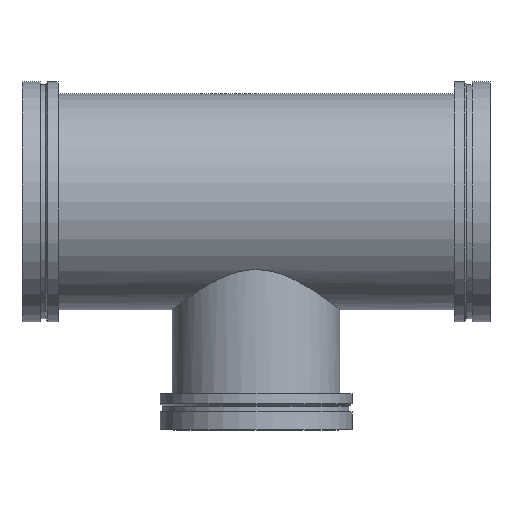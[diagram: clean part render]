
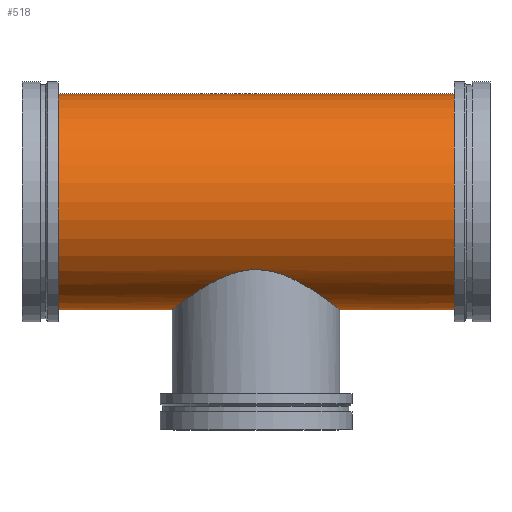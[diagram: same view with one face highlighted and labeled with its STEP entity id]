
A CAD part, top view. The second image highlights one B-rep face of the part: STEP entity #518.
In plain terms, the highlighted cylindrical face has radius 228.6 mm (diameter 457.2 mm), a full revolution.
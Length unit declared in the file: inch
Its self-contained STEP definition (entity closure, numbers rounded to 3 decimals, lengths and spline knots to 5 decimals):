
#51=FACE_BOUND('',#106,.T.);
#77=FACE_OUTER_BOUND('',#105,.T.);
#105=EDGE_LOOP('',(#381,#382,#383,#384,#385,#386));
#106=EDGE_LOOP('',(#387,#388));
#145=CIRCLE('',#580,9.);
#146=CIRCLE('',#581,9.);
#147=CIRCLE('',#582,9.);
#148=CIRCLE('',#583,9.);
#183=LINE('',#1072,#199);
#199=VECTOR('',#704,9.);
#211=B_SPLINE_CURVE_WITH_KNOTS('',3,(#934,#935,#936,#937,#938,#939,#940,
#941,#942,#943,#944,#945,#946,#947,#948,#949,#950,#951,#952,#953,#954,#955,
#956,#957,#958,#959,#960,#961,#962,#963,#964,#965,#966,#967,#968,#969,#970,
#971,#972,#973,#974,#975,#976,#977,#978,#979,#980,#981,#982,#983,#984,#985,
#986,#987,#988,#989,#990,#991,#992,#993,#994,#995,#996,#997,#998,#999,#1000,
#1001),.UNSPECIFIED.,.F.,.F.,(4,2,2,2,2,2,2,2,2,2,2,2,2,2,2,2,2,2,2,2,2,
2,2,2,2,2,2,2,2,2,2,2,2,4),(0.,1.80754,3.61507,7.23014,
10.84522,14.46029,17.98096,21.50163,23.26197,
25.0223,26.78264,28.54297,30.30331,32.06364,
33.82398,35.58432,39.10499,42.62566,46.24073,
49.8558,53.47087,55.27841,57.08595,58.89348,
60.70102,64.31609,67.93116,71.54623,75.0669,
78.58758,80.34791,82.10825,83.86858,85.62892),
 .UNSPECIFIED.);
#212=B_SPLINE_CURVE_WITH_KNOTS('',3,(#1002,#1003,#1004,#1005,#1006,#1007,
#1008,#1009,#1010,#1011,#1012,#1013,#1014,#1015,#1016,#1017,#1018,#1019,
#1020,#1021,#1022,#1023,#1024,#1025),.UNSPECIFIED.,.F.,.F.,(4,2,2,2,2,2,
2,2,2,2,2,4),(85.62892,87.38925,89.14959,90.90992,
92.67026,96.19093,99.7116,103.32667,106.94175,
110.55682,112.36435,114.17189),.UNSPECIFIED.);
#217=VERTEX_POINT('',#932);
#218=VERTEX_POINT('',#933);
#233=VERTEX_POINT('',#1067);
#234=VERTEX_POINT('',#1068);
#235=VERTEX_POINT('',#1071);
#236=VERTEX_POINT('',#1073);
#270=EDGE_CURVE('',#217,#218,#211,.T.);
#271=EDGE_CURVE('',#218,#217,#212,.T.);
#291=EDGE_CURVE('',#233,#234,#145,.T.);
#292=EDGE_CURVE('',#234,#233,#146,.T.);
#293=EDGE_CURVE('',#234,#235,#183,.T.);
#294=EDGE_CURVE('',#235,#236,#147,.T.);
#295=EDGE_CURVE('',#236,#235,#148,.T.);
#381=ORIENTED_EDGE('',*,*,#291,.F.);
#382=ORIENTED_EDGE('',*,*,#292,.F.);
#383=ORIENTED_EDGE('',*,*,#293,.T.);
#384=ORIENTED_EDGE('',*,*,#294,.T.);
#385=ORIENTED_EDGE('',*,*,#295,.T.);
#386=ORIENTED_EDGE('',*,*,#293,.F.);
#387=ORIENTED_EDGE('',*,*,#270,.T.);
#388=ORIENTED_EDGE('',*,*,#271,.T.);
#474=CYLINDRICAL_SURFACE('',#579,9.);
#518=ADVANCED_FACE('',(#77,#51),#474,.T.);
#579=AXIS2_PLACEMENT_3D('',#1066,#698,#699);
#580=AXIS2_PLACEMENT_3D('',#1069,#700,#701);
#581=AXIS2_PLACEMENT_3D('',#1070,#702,#703);
#582=AXIS2_PLACEMENT_3D('',#1074,#705,#706);
#583=AXIS2_PLACEMENT_3D('',#1075,#707,#708);
#698=DIRECTION('center_axis',(1.,0.,0.));
#699=DIRECTION('ref_axis',(0.,-1.,0.));
#700=DIRECTION('center_axis',(1.,0.,0.));
#701=DIRECTION('ref_axis',(0.,0.,1.));
#702=DIRECTION('center_axis',(1.,0.,0.));
#703=DIRECTION('ref_axis',(0.,0.,1.));
#704=DIRECTION('',(-1.,0.,0.));
#705=DIRECTION('center_axis',(1.,0.,0.));
#706=DIRECTION('ref_axis',(0.,0.,1.));
#707=DIRECTION('center_axis',(1.,0.,0.));
#708=DIRECTION('ref_axis',(0.,0.,1.));
#932=CARTESIAN_POINT('',(0.,-5.65685,7.));
#933=CARTESIAN_POINT('',(-7.,-9.,0.));
#934=CARTESIAN_POINT('Ctrl Pts',(0.,-5.65685,
7.));
#935=CARTESIAN_POINT('Ctrl Pts',(0.23721,-5.65685,7.));
#936=CARTESIAN_POINT('Ctrl Pts',(0.47419,-5.6719,6.98792));
#937=CARTESIAN_POINT('Ctrl Pts',(0.94434,-5.73039,6.94003));
#938=CARTESIAN_POINT('Ctrl Pts',(1.17752,-5.7738,6.90424));
#939=CARTESIAN_POINT('Ctrl Pts',(1.86689,-5.94023,6.76275));
#940=CARTESIAN_POINT('Ctrl Pts',(2.31303,-6.09958,6.6228));
#941=CARTESIAN_POINT('Ctrl Pts',(3.15985,-6.46834,6.26314));
#942=CARTESIAN_POINT('Ctrl Pts',(3.56127,-6.67755,6.04309));
#943=CARTESIAN_POINT('Ctrl Pts',(4.3042,-7.10163,5.53855));
#944=CARTESIAN_POINT('Ctrl Pts',(4.64563,-7.31639,5.25386));
#945=CARTESIAN_POINT('Ctrl Pts',(5.24592,-7.71168,4.65358));
#946=CARTESIAN_POINT('Ctrl Pts',(5.52875,-7.90795,4.3168));
#947=CARTESIAN_POINT('Ctrl Pts',(6.03527,-8.27001,3.57455));
#948=CARTESIAN_POINT('Ctrl Pts',(6.25896,-8.43564,3.16902));
#949=CARTESIAN_POINT('Ctrl Pts',(6.53265,-8.64129,2.52562));
#950=CARTESIAN_POINT('Ctrl Pts',(6.61376,-8.70286,2.30512));
#951=CARTESIAN_POINT('Ctrl Pts',(6.75366,-8.80965,1.85566));
#952=CARTESIAN_POINT('Ctrl Pts',(6.81245,-8.85486,1.6267));
#953=CARTESIAN_POINT('Ctrl Pts',(6.9065,-8.92742,1.16443));
#954=CARTESIAN_POINT('Ctrl Pts',(6.94177,-8.95477,0.93107));
#955=CARTESIAN_POINT('Ctrl Pts',(6.98852,-8.99106,0.46436));
#956=CARTESIAN_POINT('Ctrl Pts',(7.,-9.,0.23102));
#957=CARTESIAN_POINT('Ctrl Pts',(7.,-9.,-0.23102));
#958=CARTESIAN_POINT('Ctrl Pts',(6.98852,-8.99106,-0.46436));
#959=CARTESIAN_POINT('Ctrl Pts',(6.94177,-8.95477,-0.93107));
#960=CARTESIAN_POINT('Ctrl Pts',(6.9065,-8.92742,-1.16443));
#961=CARTESIAN_POINT('Ctrl Pts',(6.81245,-8.85486,-1.6267));
#962=CARTESIAN_POINT('Ctrl Pts',(6.75366,-8.80965,-1.85566));
#963=CARTESIAN_POINT('Ctrl Pts',(6.61376,-8.70286,-2.30512));
#964=CARTESIAN_POINT('Ctrl Pts',(6.53265,-8.64129,-2.52562));
#965=CARTESIAN_POINT('Ctrl Pts',(6.25896,-8.43564,-3.16902));
#966=CARTESIAN_POINT('Ctrl Pts',(6.03527,-8.27001,-3.57455));
#967=CARTESIAN_POINT('Ctrl Pts',(5.52875,-7.90795,-4.3168));
#968=CARTESIAN_POINT('Ctrl Pts',(5.24592,-7.71168,-4.65358));
#969=CARTESIAN_POINT('Ctrl Pts',(4.64563,-7.31639,-5.25386));
#970=CARTESIAN_POINT('Ctrl Pts',(4.3042,-7.10163,-5.53855));
#971=CARTESIAN_POINT('Ctrl Pts',(3.56127,-6.67755,-6.04309));
#972=CARTESIAN_POINT('Ctrl Pts',(3.15985,-6.46834,-6.26314));
#973=CARTESIAN_POINT('Ctrl Pts',(2.31303,-6.09958,-6.6228));
#974=CARTESIAN_POINT('Ctrl Pts',(1.86689,-5.94023,-6.76275));
#975=CARTESIAN_POINT('Ctrl Pts',(1.17752,-5.7738,-6.90424));
#976=CARTESIAN_POINT('Ctrl Pts',(0.94434,-5.73039,-6.94003));
#977=CARTESIAN_POINT('Ctrl Pts',(0.47419,-5.6719,-6.98792));
#978=CARTESIAN_POINT('Ctrl Pts',(0.23721,-5.65685,-7.));
#979=CARTESIAN_POINT('Ctrl Pts',(-0.23721,-5.65685,-7.));
#980=CARTESIAN_POINT('Ctrl Pts',(-0.47419,-5.6719,-6.98792));
#981=CARTESIAN_POINT('Ctrl Pts',(-0.94434,-5.73039,-6.94003));
#982=CARTESIAN_POINT('Ctrl Pts',(-1.17752,-5.7738,-6.90424));
#983=CARTESIAN_POINT('Ctrl Pts',(-1.86689,-5.94023,-6.76275));
#984=CARTESIAN_POINT('Ctrl Pts',(-2.31303,-6.09958,-6.6228));
#985=CARTESIAN_POINT('Ctrl Pts',(-3.15985,-6.46834,-6.26314));
#986=CARTESIAN_POINT('Ctrl Pts',(-3.56127,-6.67755,-6.04309));
#987=CARTESIAN_POINT('Ctrl Pts',(-4.3042,-7.10163,-5.53855));
#988=CARTESIAN_POINT('Ctrl Pts',(-4.64563,-7.31639,-5.25386));
#989=CARTESIAN_POINT('Ctrl Pts',(-5.24592,-7.71168,-4.65358));
#990=CARTESIAN_POINT('Ctrl Pts',(-5.52875,-7.90795,-4.3168));
#991=CARTESIAN_POINT('Ctrl Pts',(-6.03527,-8.27001,-3.57455));
#992=CARTESIAN_POINT('Ctrl Pts',(-6.25896,-8.43564,-3.16902));
#993=CARTESIAN_POINT('Ctrl Pts',(-6.53265,-8.64129,-2.52562));
#994=CARTESIAN_POINT('Ctrl Pts',(-6.61376,-8.70286,-2.30512));
#995=CARTESIAN_POINT('Ctrl Pts',(-6.75366,-8.80965,-1.85566));
#996=CARTESIAN_POINT('Ctrl Pts',(-6.81245,-8.85486,-1.6267));
#997=CARTESIAN_POINT('Ctrl Pts',(-6.9065,-8.92742,-1.16443));
#998=CARTESIAN_POINT('Ctrl Pts',(-6.94177,-8.95477,-0.93107));
#999=CARTESIAN_POINT('Ctrl Pts',(-6.98852,-8.99106,-0.46436));
#1000=CARTESIAN_POINT('Ctrl Pts',(-7.,-9.,-0.23102));
#1001=CARTESIAN_POINT('Ctrl Pts',(-7.,-9.,0.));
#1002=CARTESIAN_POINT('Ctrl Pts',(-7.,-9.,0.));
#1003=CARTESIAN_POINT('Ctrl Pts',(-7.,-9.,0.23102));
#1004=CARTESIAN_POINT('Ctrl Pts',(-6.98852,-8.99106,0.46436));
#1005=CARTESIAN_POINT('Ctrl Pts',(-6.94177,-8.95477,0.93107));
#1006=CARTESIAN_POINT('Ctrl Pts',(-6.9065,-8.92742,1.16443));
#1007=CARTESIAN_POINT('Ctrl Pts',(-6.81245,-8.85486,1.6267));
#1008=CARTESIAN_POINT('Ctrl Pts',(-6.75366,-8.80965,1.85566));
#1009=CARTESIAN_POINT('Ctrl Pts',(-6.61376,-8.70286,2.30512));
#1010=CARTESIAN_POINT('Ctrl Pts',(-6.53265,-8.64129,2.52562));
#1011=CARTESIAN_POINT('Ctrl Pts',(-6.25896,-8.43564,3.16902));
#1012=CARTESIAN_POINT('Ctrl Pts',(-6.03527,-8.27001,3.57455));
#1013=CARTESIAN_POINT('Ctrl Pts',(-5.52875,-7.90795,4.3168));
#1014=CARTESIAN_POINT('Ctrl Pts',(-5.24592,-7.71168,4.65358));
#1015=CARTESIAN_POINT('Ctrl Pts',(-4.64563,-7.31639,5.25386));
#1016=CARTESIAN_POINT('Ctrl Pts',(-4.3042,-7.10163,5.53855));
#1017=CARTESIAN_POINT('Ctrl Pts',(-3.56127,-6.67755,6.04309));
#1018=CARTESIAN_POINT('Ctrl Pts',(-3.15985,-6.46834,6.26314));
#1019=CARTESIAN_POINT('Ctrl Pts',(-2.31303,-6.09958,6.6228));
#1020=CARTESIAN_POINT('Ctrl Pts',(-1.86689,-5.94023,6.76275));
#1021=CARTESIAN_POINT('Ctrl Pts',(-1.17752,-5.7738,6.90424));
#1022=CARTESIAN_POINT('Ctrl Pts',(-0.94434,-5.73039,
6.94003));
#1023=CARTESIAN_POINT('Ctrl Pts',(-0.47419,-5.6719,
6.98792));
#1024=CARTESIAN_POINT('Ctrl Pts',(-0.23721,-5.65685,
7.));
#1025=CARTESIAN_POINT('Ctrl Pts',(0.,-5.65685,7.));
#1066=CARTESIAN_POINT('Origin',(8.25,0.,0.));
#1067=CARTESIAN_POINT('',(16.5,-9.,0.));
#1068=CARTESIAN_POINT('',(16.5,9.,0.));
#1069=CARTESIAN_POINT('Origin',(16.5,0.,0.));
#1070=CARTESIAN_POINT('Origin',(16.5,0.,0.));
#1071=CARTESIAN_POINT('',(-16.5,9.,0.));
#1072=CARTESIAN_POINT('',(8.25,9.,0.));
#1073=CARTESIAN_POINT('',(-16.5,-9.,0.));
#1074=CARTESIAN_POINT('Origin',(-16.5,0.,0.));
#1075=CARTESIAN_POINT('Origin',(-16.5,0.,0.));
